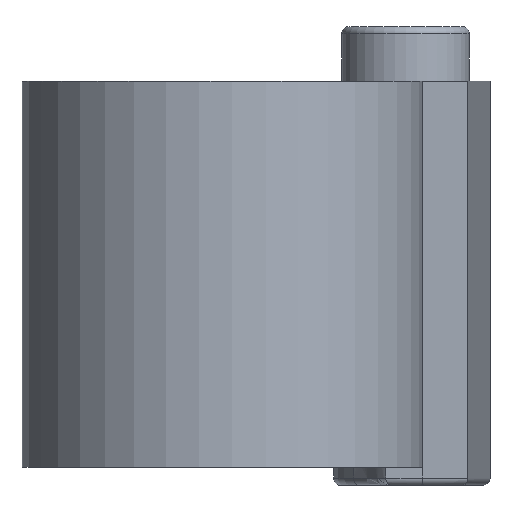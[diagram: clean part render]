
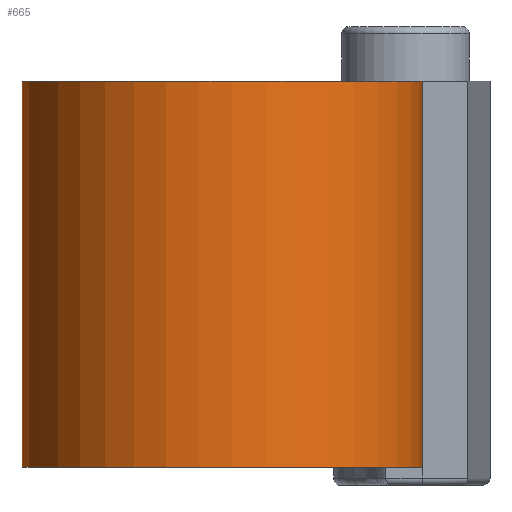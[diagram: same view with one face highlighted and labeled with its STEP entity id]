
A CAD part, front view. The second image highlights one B-rep face of the part: STEP entity #665.
In plain terms, the highlighted cylindrical face has radius 5.5 mm (diameter 11 mm), a partial arc.
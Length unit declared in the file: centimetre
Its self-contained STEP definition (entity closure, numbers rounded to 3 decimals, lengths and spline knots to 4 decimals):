
#220=VERTEX_POINT('',#3381);
#221=VERTEX_POINT('',#3383);
#231=VERTEX_POINT('',#3419);
#232=VERTEX_POINT('',#3421);
#291=EDGE_CURVE('',#221,#220,#873,.T.);
#307=EDGE_CURVE('',#220,#231,#1302,.T.);
#308=EDGE_CURVE('',#232,#231,#884,.T.);
#309=EDGE_CURVE('',#232,#221,#1303,.T.);
#431=ORIENTED_EDGE('',*,*,#307,.T.);
#432=ORIENTED_EDGE('',*,*,#308,.F.);
#433=ORIENTED_EDGE('',*,*,#309,.T.);
#434=ORIENTED_EDGE('',*,*,#291,.T.);
#583=EDGE_LOOP('',(#431,#432,#433,#434));
#625=FACE_BOUND('',#583,.T.);
#665=ADVANCED_FACE('',(#625),#695,.T.);
#695=CYLINDRICAL_SURFACE('',#2257,0.55);
#873=LINE('',#3382,#2435);
#884=LINE('',#3420,#2446);
#1302=CIRCLE('',#2258,0.55);
#1303=CIRCLE('',#2259,0.55);
#2257=AXIS2_PLACEMENT_3D('',#3417,#2819,#2820);
#2258=AXIS2_PLACEMENT_3D('',#3418,#2821,#2822);
#2259=AXIS2_PLACEMENT_3D('',#3422,#2824,#2825);
#2435=VECTOR('',#2786,1.);
#2446=VECTOR('',#2823,1.);
#2786=DIRECTION('',(0.,0.,1.));
#2819=DIRECTION('',(0.,0.,1.));
#2820=DIRECTION('',(0.55,0.,0.));
#2821=DIRECTION('',(0.,0.,-1.));
#2822=DIRECTION('',(0.55,0.,0.));
#2823=DIRECTION('',(0.,0.,1.));
#2824=DIRECTION('',(0.,0.,1.));
#2825=DIRECTION('',(0.55,0.,0.));
#3381=CARTESIAN_POINT('',(0.55,0.,1.06));
#3382=CARTESIAN_POINT('',(0.55,0.,0.));
#3383=CARTESIAN_POINT('',(0.55,0.,0.));
#3417=CARTESIAN_POINT('',(0.,0.,0.));
#3418=CARTESIAN_POINT('',(0.,0.,1.06));
#3419=CARTESIAN_POINT('',(-0.339,0.4331,1.06));
#3420=CARTESIAN_POINT('',(-0.339,0.4331,0.));
#3421=CARTESIAN_POINT('',(-0.339,0.4331,0.));
#3422=CARTESIAN_POINT('',(0.,0.,0.));
